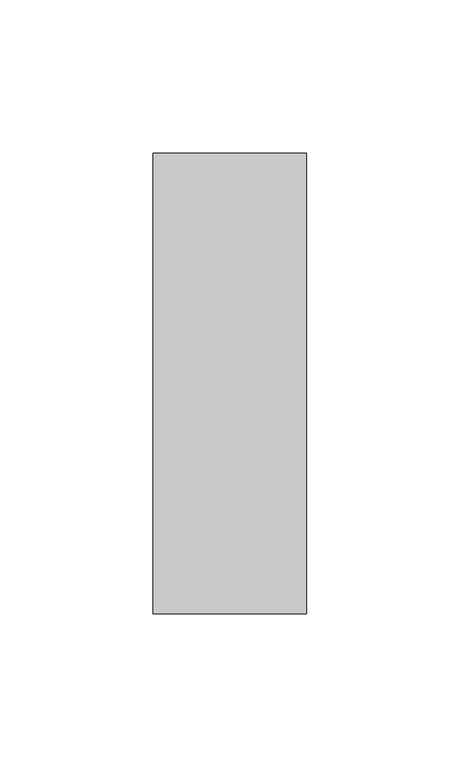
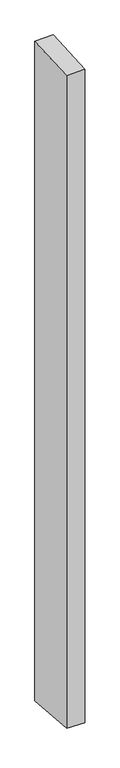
"""IFC4 building model written with IfcOpenShell, lengths in millimetres: member geometry, Прямоугольный импост : 50 x 150 мм."""

from ifc_helpers import new_model, si_unit, origin, place, context, project, spatial, faceted_brep, source, transform, mapped, element, save


def member_45aca48d(model_context):
    return source(origin(), model_context, "Body", "Brep", [
        faceted_brep([(-25.0, 75.0, 3.4714871), (25.0, 75.0, 4.8430429), (25.0, 75.0, -1901.8957435), (-25.0, 75.0, -1900.1064316), (-25.0, -75.0, -4.8430429), (-25.0, -75.0, -1887.8547884), (25.0, -75.0, -3.4714871), (25.0, -75.0, -1889.6441003)], [[[0, 1, 2, 3]], [[4, 0, 3, 5]], [[6, 4, 5, 7]], [[1, 6, 7, 2]], [[1, 0, 4, 6]], [[2, 7, 5, 3]]]),
    ])


if __name__ == "__main__":
    model = new_model("IFC4")
    model_context = context("Model", 3, world=origin())
    ifc_project = project(units=[si_unit("LENGTHUNIT", "METRE", prefix="MILLI")], contexts=[model_context])
    site = spatial("IfcSite", under=ifc_project)
    building = spatial("IfcBuilding", under=site)
    placement = place(None, origin())
    member_shape = member_45aca48d(model_context)
    element("IfcMember", 1, ObjectType="Прямоугольный импост : 50 x 150 мм", at=placement, inside=building, context=model_context, shape_type="MappedRepresentation", body=[
        mapped(member_shape, transform((0.0, 0.0, 0.0), x_axis=(1.0, 0.0, 0.0), y_axis=(0.0, 1.0, 0.0), z_axis=(0.0, 0.0, 1.0))),
    ])
    save(model, "model.ifc")
